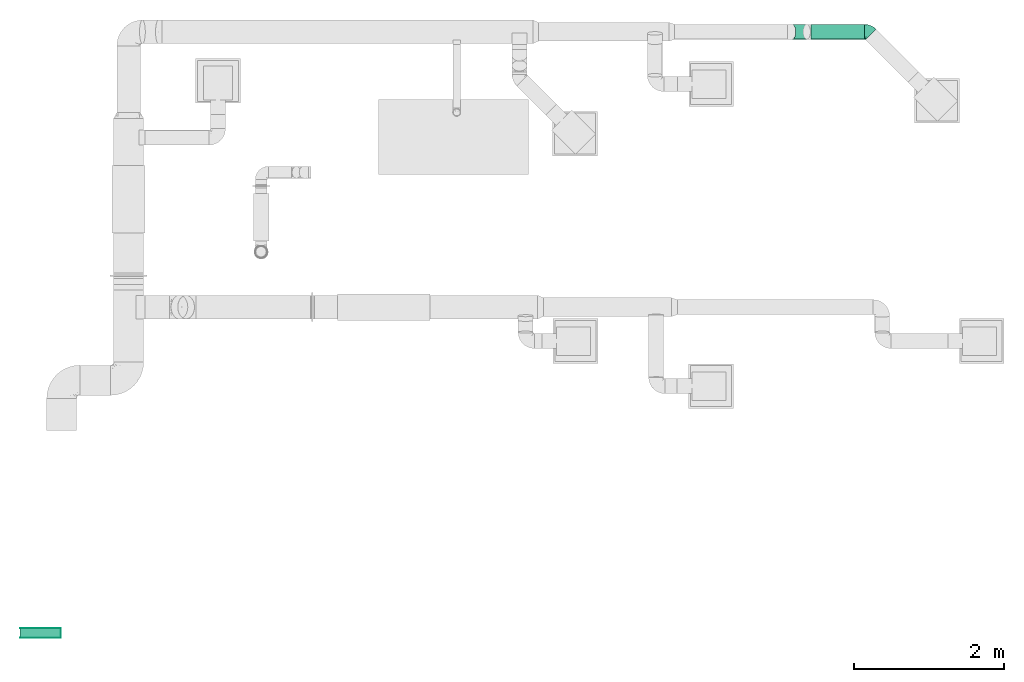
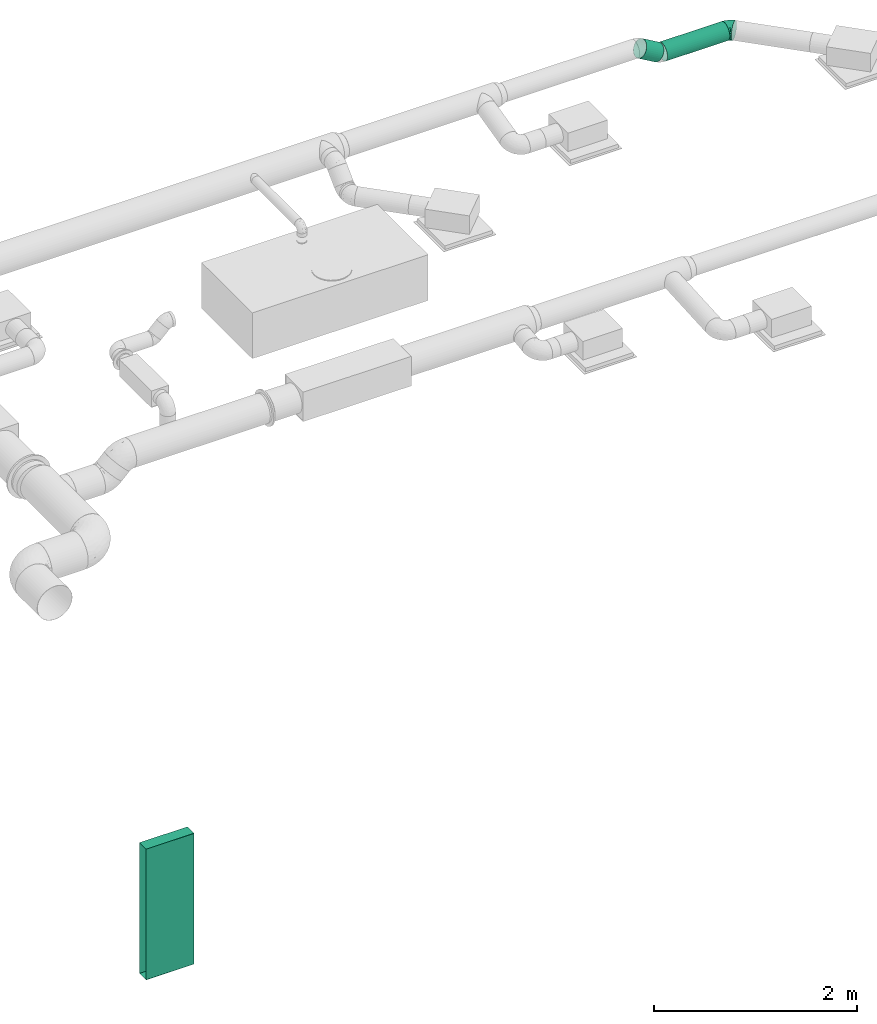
# One storey, part 7 of 16: 3 flow fittings, 3 flow segments.
"""IFC2X3 building model written with IfcOpenShell, lengths in millimetres."""

from ifc_helpers import new_model, entity, si_unit, converted_unit, derived_unit, direction, frame, origin_with_axes, origin_2d_with_axis, place, context, subcontext, project, spatial, hollow_circle, extrude, open_shell, faceted_brep, surface_model, source, transform, mapped, type_object, element, save


model = new_model("IFC2X3")

# Units and contexts
model_context = context("Model", 3, precision=0.01, world=frame((0.0, 4.29681676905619e-09, 0.0)), true_north=direction((4.01073788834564e-13, 1.0)))
plan_context = context("Plan", 3, precision=0.01, world=frame((0.0, 4.29681676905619e-09, 0.0)), true_north=direction((4.01073788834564e-13, 1.0)))
body_context = subcontext(model_context, "Body", "Model", "MODEL_VIEW")
ifc_project = project(units=[converted_unit("PLANEANGLEUNIT", "DEGREE", entity("IfcPositiveLengthMeasure", 0.0174532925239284), si_unit("PLANEANGLEUNIT", "RADIAN"), dimensions=[0, 0, 0, 0, 0, 0, 0]), si_unit("AREAUNIT", "SQUARE_METRE"), si_unit("LENGTHUNIT", "METRE", prefix="MILLI"), si_unit("MASSUNIT", "GRAM", prefix="KILO"), si_unit("POWERUNIT", "WATT"), si_unit("PRESSUREUNIT", "PASCAL"), si_unit("FORCEUNIT", "NEWTON", prefix="KILO"), si_unit("ELECTRICVOLTAGEUNIT", "VOLT"), si_unit("ELECTRICCURRENTUNIT", "AMPERE"), si_unit("THERMODYNAMICTEMPERATUREUNIT", "DEGREE_CELSIUS"), si_unit("TIMEUNIT", "SECOND"), si_unit("VOLUMEUNIT", "CUBIC_METRE"), derived_unit("LINEARVELOCITYUNIT", [(si_unit("LENGTHUNIT", "METRE"), 1), (si_unit("TIMEUNIT", "SECOND"), -1)]), derived_unit("VOLUMETRICFLOWRATEUNIT", [(si_unit("VOLUMEUNIT", "CUBIC_METRE"), 1), (si_unit("TIMEUNIT", "SECOND"), -1)]), derived_unit("THERMALTRANSMITTANCEUNIT", [(si_unit("POWERUNIT", "WATT"), 1), (si_unit("THERMODYNAMICTEMPERATUREUNIT", "KELVIN"), -1), (si_unit("AREAUNIT", "SQUARE_METRE"), -1)]), derived_unit("SOUNDPRESSUREUNIT", [(si_unit("PRESSUREUNIT", "PASCAL"), 1)])], contexts=[model_context, plan_context])

# Site, building, storey
site_placement = place(None, frame((0.0, -4.29681676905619e-09, 0.0), z_axis=(0.0, 0.0, 1.0), x_axis=(1.0, 0.0, 0.0)))
site = spatial("IfcSite", under=ifc_project, at=site_placement, Name="ENGM", CompositionType="ELEMENT")
building_placement = place(site_placement, frame((0.0, 4.29681676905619e-09, 0.0), z_axis=(0.0, 0.0, 1.0), x_axis=(1.0, 0.0, 0.0)))
building = spatial("IfcBuilding", under=site, at=building_placement, Name="TH", CompositionType="ELEMENT")
storey_placement = place(building_placement, frame((0.0, 0.0, 210200.0), z_axis=(0.0, 0.0, 1.0), x_axis=(1.0, 0.0, 0.0)))
storey = spatial("IfcBuildingStorey", under=building, at=storey_placement, Name="Nivå F - 0,7 m", CompositionType="ELEMENT", Elevation=210200.0)

# Flow fitting
duct_fitting_type_1 = type_object("IfcDuctFittingType", Name="magicirc_elbow_short_001", PredefinedType="BEND")
shared_shape_1 = source(origin_with_axes(), body_context, "Body", "SurfaceModel", [
    surface_model("IfcShellBasedSurfaceModel", [(-49.70563, 0.0, -100.0), (-49.70563, -70.71068, -70.71068), (-49.70563, 25.8819, -96.59259), (-49.70563, 50.0, -86.60254), (-49.70563, 70.71068, -70.71068), (-49.70563, 96.59259, -25.8819), (-49.70563, 86.60254, -50.0), (-49.70563, -86.60254, -50.0), (-49.70563, -50.0, -86.60254), (-49.70563, -25.8819, -96.59259), (-49.70563, -96.59259, -25.8819), (-49.70563, -100.0, 0.0), (-49.70563, 96.59259, 25.8819), (-49.70563, 25.8819, 96.59259), (-49.70563, 86.60254, 50.0), (-49.70563, 50.0, 86.60254), (-49.70563, 70.71068, 70.71068), (-49.70563, -25.8819, 96.59259), (-49.70563, -70.71068, 70.71068), (-49.70563, -50.0, 86.60254), (-49.70563, -86.60254, 50.0), (-49.70563, -96.59259, 25.8819), (-49.70563, 0.0, 100.0), (-49.70563, 100.0, 0.0), (-33.15408, 103.44845, -25.8819), (35.14719, 35.14719, -100.0), (16.84592, 53.44845, -96.59259), (-0.20815, 70.50252, -86.60254), (-14.85281, 85.14718, -70.71068), (-26.09006, 96.38443, -50.0), (105.85786, -35.56349, 0.0), (53.44845, 16.84592, -96.59259), (85.14718, -14.85281, -70.71068), (70.50252, -0.20815, -86.60254), (96.38443, -26.09006, -50.0), (103.44845, -33.15408, -25.8819), (-35.56349, 105.85786, 0.0), (-33.15408, 103.44845, 25.8819), (16.84592, 53.44845, 96.59259), (-14.85281, 85.14718, 70.71068), (-26.09006, 96.38443, 50.0), (-0.20815, 70.50252, 86.60254), (53.44845, 16.84592, 96.59259), (96.38443, -26.09006, 50.0), (70.50252, -0.20815, 86.60254), (85.14718, -14.85281, 70.71068), (103.44845, -33.15408, 25.8819), (35.14719, 35.14719, 100.0), (-6.6598, -78.69465, 55.32131), (-18.13182, -91.89202, 33.47277), (-24.86596, -97.5535, 0.0), (-6.78576, -95.77276, 0.0), (22.4948, -82.45996, 31.38069), (29.12436, -69.42702, 52.39492), (12.37742, -29.88175, 90.64522), (37.12404, -18.70607, 89.97421), (4.68854, -11.31914, 97.51858), (-18.23098, -62.02139, 76.22982), (-13.02348, -39.47786, 89.97421), (22.87885, -55.23445, 71.73393), (-24.78682, -14.914, 98.5104), (-21.4119, 11.5723, 99.68416), (7.39001, 23.69873, 99.67584), (-15.97928, 38.57739, 94.78597), (-33.08073, 79.86395, 64.3352), (-23.56301, 62.37217, 82.35825), (34.48473, -83.25349, 0.0), (42.49429, -77.90552, 18.20627), (-42.05196, 101.52241, 0.0), (72.51982, -62.92332, 0.0), (86.56363, -51.39786, 0.0), (63.91857, -66.3633, 18.52111), (-38.64634, 93.30051, 41.23913), (50.71646, -68.42721, 35.42055), (77.79859, -52.15634, 33.47277), (60.35471, -50.93634, 55.32131), (28.07272, 6.98114, 98.51039), (56.74698, -30.96451, 76.22981), (53.50228, -73.08841, 0.0), (13.84949, -89.51313, 0.0), (60.35471, -50.93633, -55.32131), (37.12405, -18.70607, -89.97421), (-21.98306, 11.532, -99.67584), (-24.78682, -14.91401, -98.51039), (-38.64634, 93.30051, -41.23913), (-33.08073, 79.86395, -64.3352), (-27.44222, 60.76535, -82.35825), (-15.97928, 38.57738, -94.78597), (12.37743, -29.88176, -90.64522), (22.87886, -55.23445, -71.73393), (-13.02348, -39.47786, -89.97421), (6.95764, 23.32334, -99.68416), (-6.6598, -78.69465, -55.32131), (-18.13182, -91.89201, -33.47277), (77.79859, -52.15634, -33.47277), (4.68854, -11.31915, -97.51858), (-18.23098, -62.02139, -76.22982), (42.40175, -74.21422, -31.3807), (12.52338, -84.24729, -35.42055), (28.49827, -69.68635, -52.39492), (25.03953, -85.13551, -18.20628), (1.72869, -92.12319, -18.52111), (28.07272, 6.98113, -98.51039), (56.74699, -30.96449, -76.22982)], [open_shell([[[0, 1, 2]], [[3, 2, 4]], [[5, 6, 4]], [[7, 4, 2]], [[4, 7, 5]], [[8, 1, 9]], [[1, 0, 9]], [[10, 11, 7]], [[7, 2, 1]], [[7, 11, 5]], [[11, 12, 5]], [[13, 12, 11]], [[14, 12, 13]], [[13, 15, 16]], [[14, 13, 16]], [[17, 13, 11]], [[18, 19, 20]], [[21, 20, 19]], [[19, 17, 21]], [[21, 17, 11]], [[17, 22, 13]], [[12, 23, 5]], [[24, 25, 26]], [[24, 26, 27]], [[28, 29, 24]], [[28, 24, 27]], [[25, 24, 30]], [[31, 32, 33]], [[31, 25, 32]], [[34, 30, 35]], [[30, 34, 32]], [[25, 30, 32]], [[24, 36, 30]], [[30, 37, 38]], [[39, 37, 40]], [[41, 38, 37]], [[41, 37, 39]], [[30, 38, 42]], [[43, 44, 45]], [[43, 46, 30]], [[30, 44, 43]], [[44, 30, 42]], [[38, 47, 42]], [[30, 36, 37]], [[48, 20, 49]], [[50, 51, 49]], [[48, 52, 53]], [[54, 55, 56]], [[19, 57, 58]], [[58, 57, 59]], [[18, 20, 48]], [[56, 60, 58]], [[60, 22, 17]], [[13, 22, 61]], [[56, 62, 61]], [[17, 19, 58]], [[49, 20, 21]], [[15, 13, 63]], [[64, 65, 39]], [[64, 14, 16]], [[63, 13, 61]], [[19, 18, 57]], [[66, 67, 52]], [[68, 12, 37]], [[69, 70, 71]], [[68, 23, 12]], [[12, 14, 72]], [[73, 74, 75]], [[65, 15, 63]], [[60, 61, 22]], [[48, 49, 52]], [[18, 48, 57]], [[42, 76, 55]], [[49, 21, 50]], [[75, 43, 45]], [[44, 42, 55]], [[54, 59, 55]], [[74, 43, 75]], [[45, 44, 77]], [[55, 77, 44]], [[74, 70, 46]], [[52, 73, 53]], [[42, 47, 76]], [[56, 76, 62]], [[64, 40, 72]], [[63, 62, 38]], [[37, 72, 40]], [[73, 71, 74]], [[36, 68, 37]], [[38, 41, 63]], [[47, 38, 62]], [[77, 59, 75]], [[39, 65, 41]], [[43, 74, 46]], [[41, 65, 63]], [[61, 62, 63]], [[15, 65, 16]], [[59, 77, 55]], [[67, 78, 71]], [[75, 45, 77]], [[59, 57, 48]], [[65, 64, 16]], [[39, 40, 64]], [[53, 75, 59]], [[21, 11, 50]], [[75, 53, 73]], [[48, 53, 59]], [[58, 60, 17]], [[61, 60, 56]], [[62, 76, 47]], [[55, 76, 56]], [[71, 73, 67]], [[12, 72, 37]], [[73, 52, 67]], [[49, 79, 52]], [[78, 67, 66]], [[78, 69, 71]], [[74, 71, 70]], [[70, 30, 46]], [[64, 72, 14]], [[56, 58, 54]], [[59, 54, 58]], [[79, 49, 51]], [[79, 66, 52]], [[32, 34, 80]], [[31, 33, 81]], [[0, 2, 82]], [[83, 9, 0]], [[6, 84, 85]], [[27, 86, 28]], [[87, 3, 86]], [[3, 4, 86]], [[88, 89, 90]], [[26, 25, 91]], [[84, 5, 24]], [[92, 93, 7]], [[94, 35, 70]], [[93, 50, 10]], [[95, 82, 91]], [[96, 8, 90]], [[97, 98, 99]], [[96, 1, 8]], [[7, 93, 10]], [[98, 93, 92]], [[1, 92, 7]], [[8, 9, 90]], [[100, 79, 101]], [[96, 89, 92]], [[66, 100, 97]], [[5, 23, 68]], [[92, 1, 96]], [[68, 36, 24]], [[87, 82, 2]], [[95, 83, 82]], [[24, 29, 84]], [[27, 87, 86]], [[80, 97, 99]], [[3, 87, 2]], [[83, 90, 9]], [[27, 26, 87]], [[6, 85, 4]], [[81, 88, 95]], [[87, 26, 91]], [[81, 95, 102]], [[91, 82, 87]], [[89, 81, 103]], [[81, 33, 103]], [[94, 34, 35]], [[25, 31, 102]], [[94, 80, 34]], [[85, 86, 4]], [[94, 70, 69]], [[51, 50, 101]], [[98, 101, 93]], [[97, 80, 94]], [[33, 32, 103]], [[102, 91, 25]], [[89, 103, 80]], [[24, 5, 68]], [[89, 96, 90]], [[32, 80, 103]], [[29, 28, 85]], [[86, 85, 28]], [[99, 92, 89]], [[93, 101, 50]], [[92, 99, 98]], [[80, 99, 89]], [[82, 83, 0]], [[90, 83, 95]], [[81, 102, 31]], [[91, 102, 95]], [[101, 98, 100]], [[85, 84, 29]], [[98, 97, 100]], [[94, 78, 97]], [[79, 100, 66]], [[79, 51, 101]], [[50, 11, 10]], [[5, 84, 6]], [[35, 30, 70]], [[89, 88, 81]], [[90, 95, 88]], [[78, 94, 69]], [[78, 66, 97]]])]),
])
flow_fitting_placement = place(storey_placement, frame((906390.5554, 486337.00187, 2598.0), z_axis=(0.0, 0.0, 1.0), x_axis=(-0.707106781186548, 0.707106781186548, 0.0)))
element("IfcFlowFitting", 1, at=flow_fitting_placement, inside=storey, type_object=duct_fitting_type_1, Name="magicirc_elbow_short_001", context=body_context, shape_type="MappedRepresentation", body=[
    mapped(shared_shape_1, transform((0.0, 0.0, 0.0), scale=1.0)),
])

# Flow segments
duct_segment_type_1 = type_object("IfcDuctSegmentType", Name="KK002T - Spiro kanaler, Forsinket stål, korte bend", PredefinedType="RIGIDSEGMENT")
shared_shape_2 = source(origin_with_axes(), body_context, "Body", "SweptSolid", [
    extrude(hollow_circle(Radius=100.0, WallThickness=2.0, at=origin_2d_with_axis()), frame((0.0, 0.0, 0.0), z_axis=(1.0, 0.0, 0.0), x_axis=(0.0, 1.0, 0.0)), (0.0, 0.0, 1.0), 708.1),
])
flow_segment_1_placement = place(storey_placement, frame((906340.84977, 486337.00187, 2598.0), z_axis=(0.0, 0.0, 1.0), x_axis=(-1.0, 0.0, 0.0)))
element("IfcFlowSegment", 2, at=flow_segment_1_placement, inside=storey, type_object=duct_segment_type_1, Name="KK002T - Spiro kanaler, Forsinket stål, korte bend", context=body_context, shape_type="MappedRepresentation", body=[
    mapped(shared_shape_2, transform((0.0, 0.0, 0.0), scale=1.0)),
])
shared_shape_3 = source(origin_with_axes(), body_context, "Body", "SweptSolid", [
    extrude(hollow_circle(Radius=100.0, WallThickness=2.0, at=origin_2d_with_axis()), frame((0.0, 0.0, 0.0), z_axis=(1.0, 0.0, 0.0), x_axis=(0.0, 1.0, 0.0)), (0.0, 0.0, 1.0), 226.1),
])
flow_segment_2_placement = place(storey_placement, frame((905572.70931, 486337.00187, 2614.07694999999), z_axis=(0.500000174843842, 0.0, 0.866025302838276), x_axis=(-0.866025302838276, 0.0, 0.500000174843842)))
element("IfcFlowSegment", 3, at=flow_segment_2_placement, inside=storey, type_object=duct_segment_type_1, Name="KK002T - Spiro kanaler, Forsinket stål, korte bend", context=body_context, shape_type="MappedRepresentation", body=[
    mapped(shared_shape_3, transform((0.0, 0.0, 0.0), scale=1.0)),
])

# Flow fittings
duct_fitting_type_2 = type_object("IfcDuctFittingType", Name="LEPR", PredefinedType="OBSTRUCTION")
for number, where, z_axis, x_axis in (
    (4, (894606.4875, 478343.72728, 1585.0), (-1.0, 0.0, 0.0), (0.0, 0.0, 1.0)),
    (5, (894606.4875, 478343.72728, 15.0), (-1.0, 0.0, 0.0), (0.0, 0.0, -1.0)),
):
    element("IfcFlowFitting", number, at=place(storey_placement, frame(where, z_axis=z_axis, x_axis=x_axis)), inside=storey, type_object=duct_fitting_type_2, Name="LEPR", context=body_context, shape_type="Brep", body=[
        faceted_brep([(0.0, 31.2878223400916, -505.418668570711), (0.0, -65.0, -505.418668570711), (0.0, -65.0, -1050.0), (0.0, 65.0, -1050.0), (0.0, 65.0, -505.418668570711), (0.8, -65.0, -505.418668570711), (0.8, 31.2878223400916, -505.418668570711), (0.8, 65.0, -1050.0), (0.8, -65.0, -1050.0), (0.8, 65.0, -505.418668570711), (0.207459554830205, 65.0, -505.418668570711), (0.592540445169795, -65.0, -505.418668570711)], [[[0, 1, 2, 3]], [[4, 0, 3]], [[5, 6, 7, 8]], [[6, 9, 7]], [[10, 4, 3]], [[9, 10, 3, 7]], [[7, 3, 2]], [[2, 8, 7]], [[1, 11, 8, 2]], [[11, 5, 8]], [[4, 10, 9, 6, 5, 11, 1, 0]]], orient=[[False], [False], [False], [False], [False], [False], [False], [False], [False], [False], [False]]),
    ])

# Flow segment
duct_segment_type_2 = type_object("IfcDuctSegmentType", Name="KK002T - Rektangulære, Forsinket stål", PredefinedType="RIGIDSEGMENT")
flow_segment_3_placement = place(storey_placement, frame((894606.4875, 478343.72728, 15.0), z_axis=(-1.0, 0.0, 0.0), x_axis=(0.0, 0.0, 1.0)))
element("IfcFlowSegment", 6, at=flow_segment_3_placement, inside=storey, type_object=duct_segment_type_2, Name="KK002T - Rektangulære, Forsinket stål", context=body_context, shape_type="Brep", body=[
    faceted_brep([(0.0, 63.0, -1048.0), (1570.0, 63.0, -1048.0), (1570.0, -63.0, -1048.0), (0.0, -63.0, -1048.0), (1570.0, -63.0, -505.418668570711), (0.0, -63.0, -505.418668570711), (0.0, 63.0, -505.418668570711), (1570.0, 63.0, -505.418668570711), (0.0, -65.0, -1050.0), (1570.0, -65.0, -1050.0), (1570.0, 65.0, -1050.0), (0.0, 65.0, -1050.0), (1570.0, 65.0, -505.418668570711), (0.0, 65.0, -505.418668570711), (0.0, -65.0, -505.418668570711), (1570.0, -65.0, -505.418668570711)], [[[0, 1, 2, 3]], [[4, 5, 3, 2]], [[6, 7, 1, 0]], [[8, 9, 10, 11]], [[12, 13, 11, 10]], [[14, 15, 9, 8]], [[13, 6, 0, 3, 5, 14, 8, 11]], [[15, 4, 2, 1, 7, 12, 10, 9]], [[15, 14, 5, 4]], [[13, 12, 7, 6]]], orient=[[False], [False], [False], [False], [False], [False], [False], [False], [False], [False]]),
])

save(model, "model.ifc")
